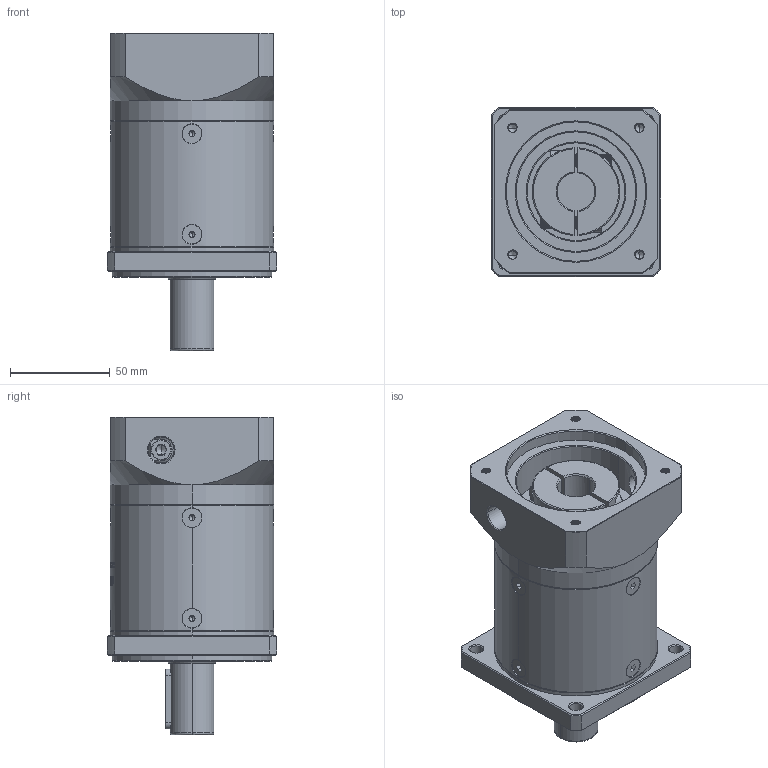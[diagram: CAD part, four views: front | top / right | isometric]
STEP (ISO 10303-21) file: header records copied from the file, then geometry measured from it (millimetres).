
FILE_DESCRIPTION (( 'STEP AP214' ), '1' );
FILE_NAME ('ZF80-D22-L2-19-70-90-M5.step', '2022-05-08T09:18:13', ( '' ), ( 'Microsoft' ), 'SwSTEP 2.0', 'SolidWorks 2016', '' );
FILE_SCHEMA (( 'AUTOMOTIVE_DESIGN' ));
Length unit declared in the file: millimetre
Products named in the file (1): ZF80-D22-L2-19-70-90-M5
Bounding box: 85 x 85 x 159.5 mm (x, y, z)
Volume: 637439 mm3; surface area: 91263.5 mm2
Topology: 13 solids, 13 shells, 1972 faces, 5117 edges, 3238 vertices
Faces by surface type: plane 891, cylinder 408, cone 336, bspline 320, torus 17
Entity records: 107713 total; most frequent: CARTESIAN_POINT 41414, ORIENTED_EDGE 10174, DIRECTION 8014, EDGE_CURVE 5087, VERTEX_POINT 3238, VECTOR 2750, LINE 2750, AXIS2_PLACEMENT_3D 2632
